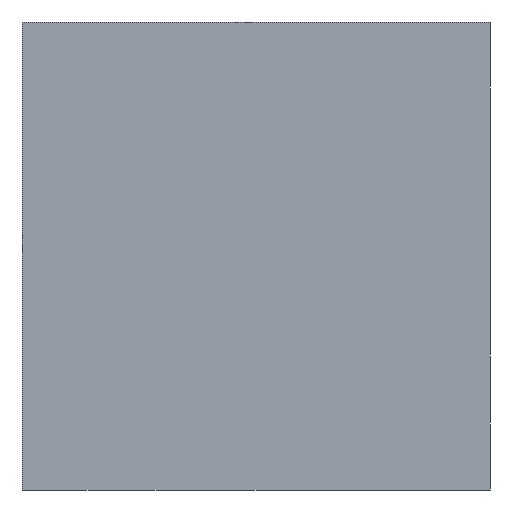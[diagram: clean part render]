
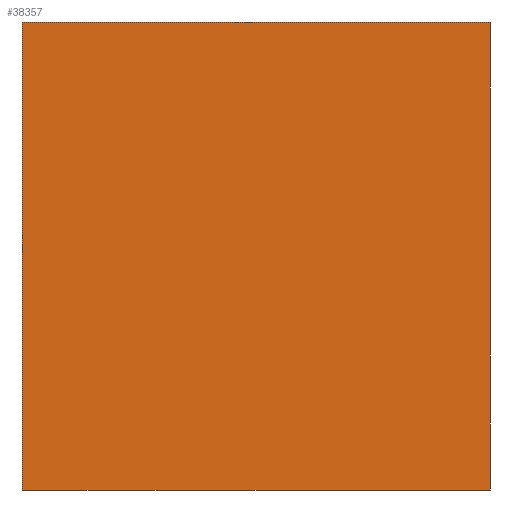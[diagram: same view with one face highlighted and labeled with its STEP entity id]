
A CAD part, front view. The second image highlights one B-rep face of the part: STEP entity #38357.
In plain terms, the highlighted planar face has unit normal (0, -1, 0).
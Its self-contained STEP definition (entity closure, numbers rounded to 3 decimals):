
#1569 = EDGE_CURVE ( 'NONE', #7349, #17957, #16890, .T. ) ;
#3017 = VECTOR ( 'NONE', #16923, 1000. ) ;
#3242 = VECTOR ( 'NONE', #36892, 1000. ) ;
#3666 = CARTESIAN_POINT ( 'NONE',  ( 24.9, 0., -24.9 ) ) ;
#6089 = LINE ( 'NONE', #17207, #3017 ) ;
#7349 = VERTEX_POINT ( 'NONE', #24669 ) ;
#9917 = LINE ( 'NONE', #40160, #3242 ) ;
#13099 = DIRECTION ( 'NONE',  ( -1., 0., 0. ) ) ;
#13507 = VERTEX_POINT ( 'NONE', #3666 ) ;
#16890 = LINE ( 'NONE', #29697, #32795 ) ;
#16923 = DIRECTION ( 'NONE',  ( 0., 0., -1. ) ) ;
#17207 = CARTESIAN_POINT ( 'NONE',  ( -24.9, 0., 24.9 ) ) ;
#17883 = CARTESIAN_POINT ( 'NONE',  ( 24.9, 0., 24.9 ) ) ;
#17957 = VERTEX_POINT ( 'NONE', #32123 ) ;
#18416 = FACE_OUTER_BOUND ( 'NONE', #22047, .T. ) ;
#22047 = EDGE_LOOP ( 'NONE', ( #40741, #28281, #34920, #24370 ) ) ;
#23042 = EDGE_CURVE ( 'NONE', #17957, #38076, #6089, .T. ) ;
#24370 = ORIENTED_EDGE ( 'NONE', *, *, #1569, .T. ) ;
#24669 = CARTESIAN_POINT ( 'NONE',  ( 24.9, 0., 24.9 ) ) ;
#26928 = CARTESIAN_POINT ( 'NONE',  ( -24.9, 0., -24.9 ) ) ;
#28281 = ORIENTED_EDGE ( 'NONE', *, *, #28404, .F. ) ;
#28404 = EDGE_CURVE ( 'NONE', #13507, #38076, #9917, .T. ) ;
#29697 = CARTESIAN_POINT ( 'NONE',  ( 24.9, 0., 24.9 ) ) ;
#31512 = DIRECTION ( 'NONE',  ( 0., 1., 0. ) ) ;
#32123 = CARTESIAN_POINT ( 'NONE',  ( -24.9, 0., 24.9 ) ) ;
#32714 = DIRECTION ( 'NONE',  ( 0., 0., -1. ) ) ;
#32795 = VECTOR ( 'NONE', #13099, 1000. ) ;
#34435 = LINE ( 'NONE', #35780, #34492 ) ;
#34457 = EDGE_CURVE ( 'NONE', #7349, #13507, #34435, .T. ) ;
#34492 = VECTOR ( 'NONE', #32714, 1000. ) ;
#34681 = DIRECTION ( 'NONE',  ( 0., 0., 1. ) ) ;
#34920 = ORIENTED_EDGE ( 'NONE', *, *, #34457, .F. ) ;
#35780 = CARTESIAN_POINT ( 'NONE',  ( 24.9, 0., 24.9 ) ) ;
#36892 = DIRECTION ( 'NONE',  ( -1., 0., 0. ) ) ;
#37856 = PLANE ( 'NONE',  #38924 ) ;
#38076 = VERTEX_POINT ( 'NONE', #26928 ) ;
#38357 = ADVANCED_FACE ( 'NONE', ( #18416 ), #37856, .F. ) ;
#38924 = AXIS2_PLACEMENT_3D ( 'NONE', #17883, #31512, #34681 ) ;
#40160 = CARTESIAN_POINT ( 'NONE',  ( 24.9, 0., -24.9 ) ) ;
#40741 = ORIENTED_EDGE ( 'NONE', *, *, #23042, .T. ) ;
